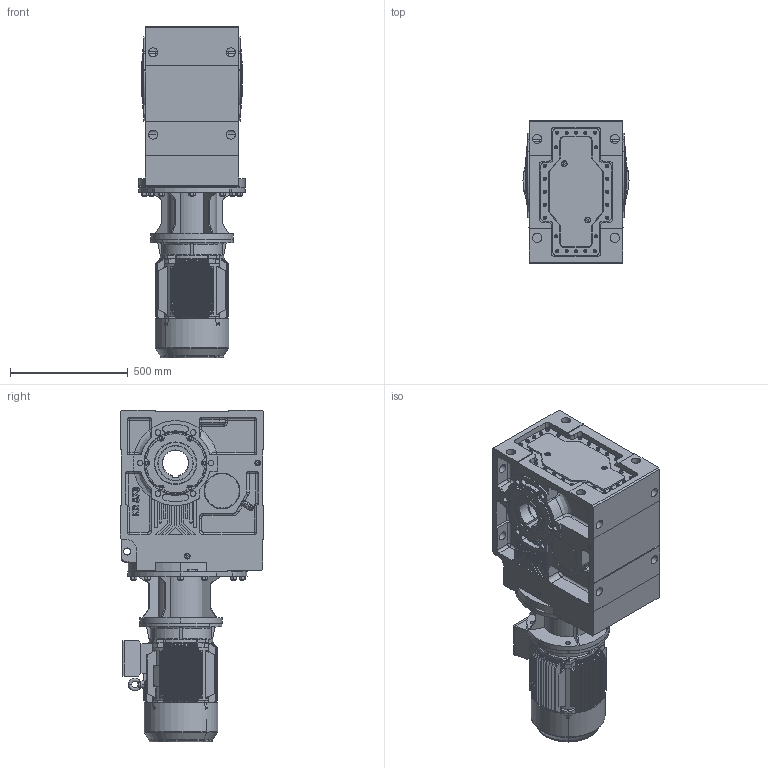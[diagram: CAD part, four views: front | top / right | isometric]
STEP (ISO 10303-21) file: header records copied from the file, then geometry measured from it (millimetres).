
FILE_DESCRIPTION (( 'STEP AP203' ), '1' );
FILE_NAME ('KV_873_0_M3-160M-4.STEP', '2019-07-18T09:08:51', ( '' ), ( '' ), 'SwSTEP 2.0', 'SolidWorks 2012', '' );
FILE_SCHEMA (( 'CONFIG_CONTROL_DESIGN' ));
Products named in the file (16): KV_873_0_M3-160M-4; M3-160M-FF-B5; Y2-160_shaft; M3-HS160M-FF-B5; Y2-160ñ»ª­+¿_-++ñ; Y2-160-180ñ»ª­®+_-++ñ; +ª+§ªiY2-160ñ»ª­_-++ñ; Y2-160M+À+¿(B5)_-++ñ; +¦i-MN2-160_-++ñ; Y2-160-4Ý¾6Ý¾8-ª+---®+_-++ñ; Eyebolts GB_GB_FASTENER_SCREWS_FRS M12; Y2-160-2ª¥--®+_-++ñ; ML23A_Varsayìlan; KN_87_3_0_A-B16_B5_ML23A_0_0_0_0_0_0_0_0_0_0_0_0_M1; 83A160B5_Varsayìlan; K873_Varsayìlan
Assembly tree (15 placements, depth 5):
  KV_873_0_M3-160M-4
    KN_87_3_0_A-B16_B5_ML23A_0_0_0_0_0_0_0_0_0_0_0_0_M1
      K873_Varsayìlan
      83A160B5_Varsayìlan
      ML23A_Varsayìlan
    M3-HS160M-FF-B5
      M3-160M-FF-B5
        Eyebolts GB_GB_FASTENER_SCREWS_FRS M12
        Y2-160-4Ý¾6Ý¾8-ª+---®+_-++ñ
        +¦i-MN2-160_-++ñ
        Y2-160-2ª¥--®+_-++ñ
        +ª+§ªiY2-160ñ»ª­_-++ñ
          Y2-160-180ñ»ª­®+_-++ñ
          Y2-160ñ»ª­+¿_-++ñ
        Y2-160M+À+¿(B5)_-++ñ
        Y2-160_shaft
Bounding box: 450 x 610 x 1408 mm (x, y, z)
Volume: 22962864.4 mm3; surface area: 6359161.1 mm2
Topology: 10 solids, 57 shells, 3643 faces, 9334 edges, 5886 vertices
Faces by surface type: plane 1503, cylinder 1213, bspline 434, cone 386, torus 67, sphere 40
Entity records: 161929 total; most frequent: CARTESIAN_POINT 75835, ORIENTED_EDGE 18360, DIRECTION 16377, EDGE_CURVE 9200, AXIS2_PLACEMENT_3D 5938, VERTEX_POINT 5864, LINE 4501, VECTOR 4501
